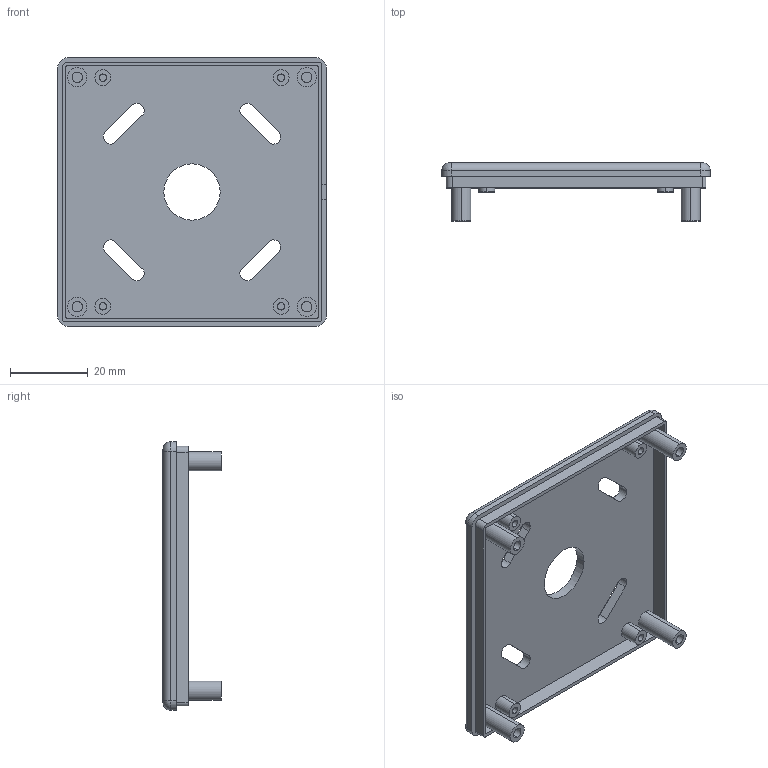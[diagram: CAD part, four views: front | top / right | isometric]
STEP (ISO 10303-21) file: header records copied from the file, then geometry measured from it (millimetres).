
FILE_DESCRIPTION (( 'STEP AP214' ), '1' );
FILE_NAME ('Tapa PP118.STEP', '2018-06-07T06:26:12', ( 'aaa' ), ( '' ), 'SwSTEP 2.0', 'SolidWorks 2013', '' );
FILE_SCHEMA (( 'AUTOMOTIVE_DESIGN' ));
Length unit declared in the file: millimetre
Products named in the file (1): Tapa PP118
Bounding box: 69.25 x 15 x 69.25 mm (x, y, z)
Volume: 13063.8 mm3; surface area: 13439.7 mm2
Topology: 1 solids, 1 shells, 109 faces, 262 edges, 172 vertices
Faces by surface type: cylinder 62, plane 43, torus 4
Entity records: 3274 total; most frequent: DIRECTION 610, CARTESIAN_POINT 544, ORIENTED_EDGE 524, EDGE_CURVE 262, AXIS2_PLACEMENT_3D 238, VERTEX_POINT 172, EDGE_LOOP 136, VECTOR 134
